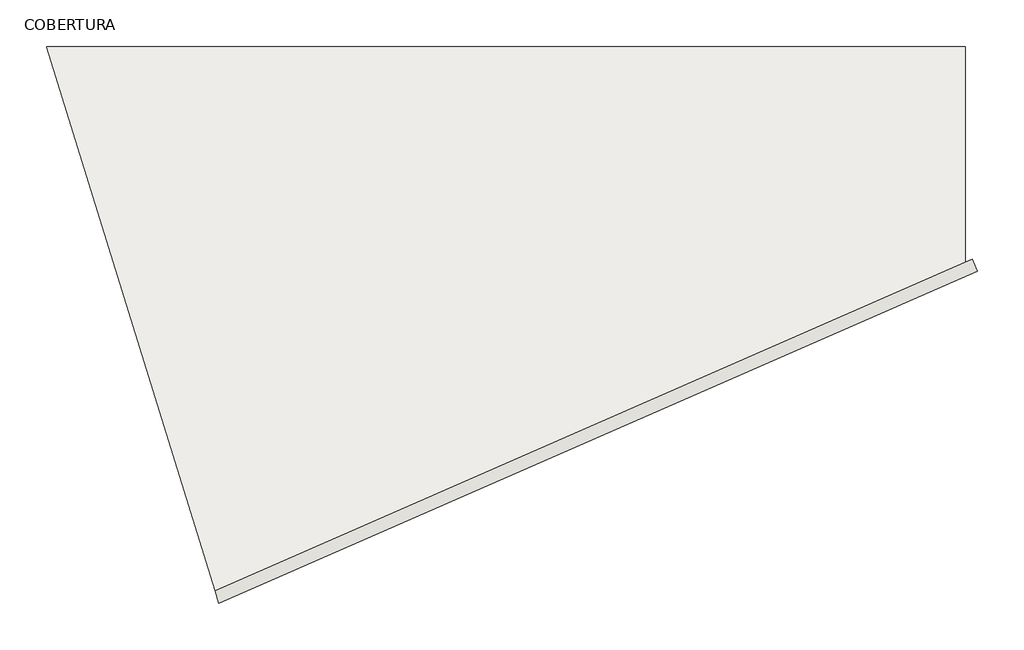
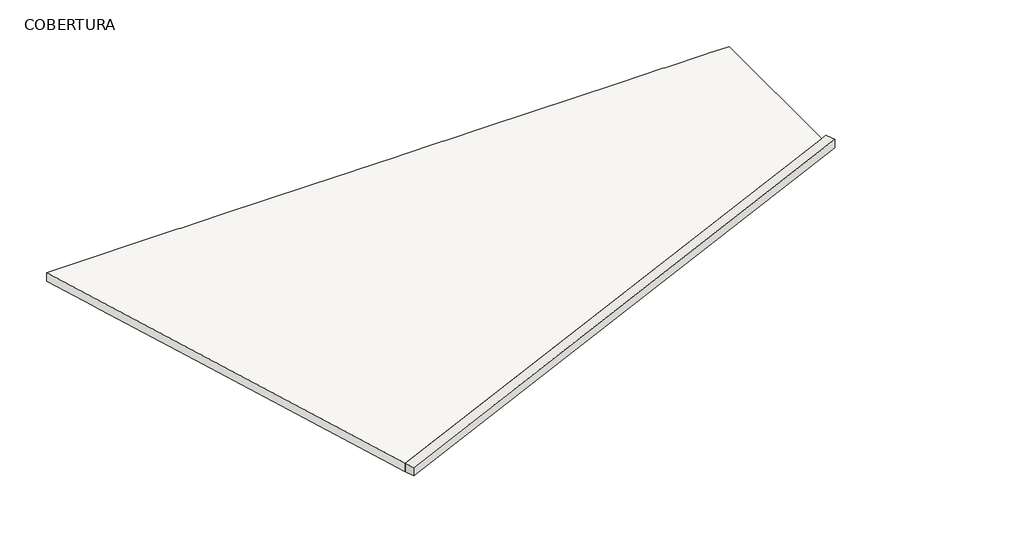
# One storey: 1 slab, 1 wall.
"""IFC4 building model written with IfcOpenShell, lengths in millimetres."""

from ifc_helpers import new_model, si_unit, origin, place, context, project, spatial, faceted_brep, element, save

model = new_model("IFC4")

# Units and contexts
model_context = context("Model", 3, world=origin())
ifc_project = project(units=[si_unit("LENGTHUNIT", "METRE", prefix="MILLI")], contexts=[model_context])

# Site, building, storey
site = spatial("IfcSite", under=ifc_project)
building = spatial("IfcBuilding", under=site)
storey = spatial("IfcBuildingStorey", under=building, Name="COBERTURA", Elevation=6700.0)

# Slab
placement = place(None, origin())
element("IfcSlab", 1, ObjectType="Concreto polido - 20cm", at=placement, inside=storey, context=model_context, shape_type="Brep", body=[
    faceted_brep([(-11246.2197586, 7556.0881727, 6500.0), (-8255.9261097, 7556.0881727, 6500.0), (-8225.9261097, 7556.0881727, 6500.0), (-7255.9261097, 7556.0881727, 6500.0), (-7225.9261097, 7556.0881727, 6500.0), (-6255.9261097, 7556.0881727, 6500.0), (-6225.9261097, 7556.0881727, 6500.0), (-5255.9261097, 7556.0881727, 6500.0), (-5225.9261097, 7556.0881727, 6500.0), (-4255.9261097, 7556.0881727, 6500.0), (-4225.9261097, 7556.0881727, 6500.0), (-3255.9261097, 7556.0881727, 6500.0), (-3225.9261097, 7556.0881727, 6500.0), (-2255.9261097, 7556.0881727, 6500.0), (-2225.9261097, 7556.0881727, 6500.0), (-1255.9261097, 7556.0881727, 6500.0), (-1225.9261097, 7556.0881727, 6500.0), (-255.9261097, 7556.0881727, 6500.0), (-225.9261097, 7556.0881727, 6500.0), (744.0738903, 7556.0881727, 6500.0), (774.0738903, 7556.0881727, 6500.0), (1744.0738903, 7556.0881727, 6500.0), (1774.0738903, 7556.0881727, 6500.0), (2744.0738903, 7556.0881727, 6500.0), (2774.0738903, 7556.0881727, 6500.0), (3744.0738903, 7556.0881727, 6500.0), (3774.0738903, 7556.0881727, 6500.0), (4248.4881645, 7556.0881727, 6500.0), (4248.4881645, 7546.0881727, 6500.0), (4248.4881645, 6346.0881727, 6500.0), (4248.4881645, 3914.831543, 6500.0), (-8404.1674124, -1626.5174074, 6500.0), (-10073.3673395, 3766.629058, 6500.0), (-10141.4582001, 3986.629058, 6500.0), (-10819.1043605, 6176.0881727, 6500.0), (-10871.7200255, 6346.0881727, 6500.0), (-10882.816096, 6381.9393207, 6500.0), (-11237.615754, 7528.2888323, 6500.0), (-11243.1247194, 7546.0881727, 6500.0), (3846.6404788, 3986.629058, 6500.0), (3856.6877525, 4013.068655, 6500.0), (3797.8371467, 3986.629058, 6500.0), (3408.8175746, 3811.8556533, 6500.0), (-8190.1912868, -1399.1887633, 6500.0), (-8181.9951251, -1417.4321986, 6500.0), (3408.8175746, 3789.9299583, 6500.0), (4248.4881645, 7556.0881727, 6700.0), (3774.0738903, 7556.0881727, 6700.0), (3744.0738903, 7556.0881727, 6700.0), (2774.0738903, 7556.0881727, 6700.0), (2744.0738903, 7556.0881727, 6700.0), (1774.0738903, 7556.0881727, 6700.0), (1744.0738903, 7556.0881727, 6700.0), (774.0738903, 7556.0881727, 6700.0), (744.0738903, 7556.0881727, 6700.0), (-225.9261097, 7556.0881727, 6700.0), (-255.9261097, 7556.0881727, 6700.0), (-1225.9261097, 7556.0881727, 6700.0), (-1255.9261097, 7556.0881727, 6700.0), (-2225.9261097, 7556.0881727, 6700.0), (-2255.9261097, 7556.0881727, 6700.0), (-3225.9261097, 7556.0881727, 6700.0), (-3255.9261097, 7556.0881727, 6700.0), (-4225.9261097, 7556.0881727, 6700.0), (-4255.9261097, 7556.0881727, 6700.0), (-5225.9261097, 7556.0881727, 6700.0), (-5255.9261097, 7556.0881727, 6700.0), (-6225.9261097, 7556.0881727, 6700.0), (-6255.9261097, 7556.0881727, 6700.0), (-7225.9261097, 7556.0881727, 6700.0), (-7255.9261097, 7556.0881727, 6700.0), (-8225.9261097, 7556.0881727, 6700.0), (-8255.9261097, 7556.0881727, 6700.0), (-11246.2197586, 7556.0881727, 6700.0), (-11243.1247194, 7546.0881727, 6700.0), (-8404.1674124, -1626.5174074, 6700.0), (4248.4881645, 3914.831543, 6700.0), (4248.4881645, 7546.0881727, 6700.0), (3846.6404788, 3986.629058, 6520.0), (3408.8175746, 3789.9299583, 6520.0), (-8181.9951251, -1417.4321986, 6520.0), (-8190.1912868, -1399.1887633, 6520.0), (3408.8175746, 3811.8556533, 6520.0), (3797.8371467, 3986.629058, 6520.0), (3856.6877525, 4013.068655, 6520.0)], [[[0, 1, 2, 3, 4, 5, 6, 7, 8, 9, 10, 11, 12, 13, 14, 15, 16, 17, 18, 19, 20, 21, 22, 23, 24, 25, 26, 27, 28, 29, 30, 31, 32, 33, 34, 35, 36, 37, 38], [39, 40, 41, 42, 43, 44, 45]], [[46, 47, 48, 49, 50, 51, 52, 53, 54, 55, 56, 57, 58, 59, 60, 61, 62, 63, 64, 65, 66, 67, 68, 69, 70, 71, 72, 73, 74, 75, 76, 77]], [[27, 26, 25, 24, 23, 22, 21, 20, 19, 18, 17, 16, 15, 14, 13, 12, 11, 10, 9, 8, 7, 6, 5, 4, 3, 2, 1, 0, 73, 72, 71, 70, 69, 68, 67, 66, 65, 64, 63, 62, 61, 60, 59, 58, 57, 56, 55, 54, 53, 52, 51, 50, 49, 48, 47, 46]], [[30, 29, 28, 27, 46, 77, 76]], [[78, 79, 80, 81, 82, 83, 84]], [[78, 84, 40, 39]], [[84, 83, 82, 81, 43, 42, 41, 40]], [[81, 80, 44, 43]], [[80, 79, 78, 39, 45, 44]], [[31, 30, 76, 75]], [[0, 38, 37, 36, 35, 34, 33, 32, 31, 75, 74, 73]]]),
])

# Wall
element("IfcWall", 2, ObjectType="Parede Externa - 22cm", at=placement, inside=storey, context=model_context, shape_type="Brep", body=[
    faceted_brep([(4370.2303289, 3968.1496635, 6700.0), (4370.2303289, 3968.1496635, 6500.0), (4248.4881645, 3914.831543, 6500.0), (-8404.1674124, -1626.5174074, 6500.0), (-8404.1674124, -1626.5174074, 6700.0), (4248.4881645, 3914.831543, 6700.0), (-8338.7059458, -1838.0218961, 6500.0), (4458.4881645, 3766.629058, 6500.0), (4458.4881645, 3766.629058, 6700.0), (-8338.7059458, -1838.0218961, 6700.0)], [[[0, 1, 2, 3, 4, 5]], [[6, 7, 8, 9]], [[7, 6, 3, 2, 1]], [[9, 8, 0, 5, 4]], [[1, 0, 8, 7]], [[4, 3, 6, 9]]]),
])

save(model, "model.ifc")
